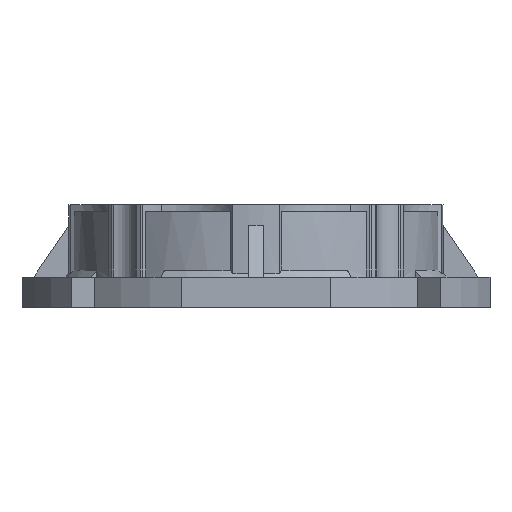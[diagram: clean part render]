
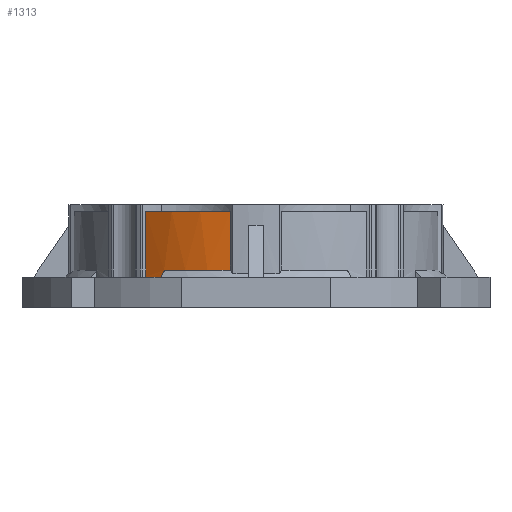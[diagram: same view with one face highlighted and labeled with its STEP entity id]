
A CAD part, left-side view. The second image highlights one B-rep face of the part: STEP entity #1313.
In plain terms, the highlighted cylindrical face has radius 78.5 mm (diameter 157 mm), a partial arc.
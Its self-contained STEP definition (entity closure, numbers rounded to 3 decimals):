
#1276 = EDGE_CURVE ( 'NONE', #4010, #4011, #4988, .T. ) ;
#1313 = ADVANCED_FACE ( 'NONE', ( #10997 ), #11000, .T. ) ;
#1583 = EDGE_CURVE ( 'NONE', #5924, #4010, #12081, .T. ) ;
#1584 = EDGE_CURVE ( 'NONE', #4011, #5877, #12084, .T. ) ;
#1618 = EDGE_CURVE ( 'NONE', #3640, #3636, #12267, .T. ) ;
#2126 = EDGE_CURVE ( 'NONE', #5877, #3640, #5258, .T. ) ;
#2345 = EDGE_CURVE ( 'NONE', #3636, #5924, #5354, .T. ) ;
#3636 = VERTEX_POINT ( 'NONE', #18124 ) ;
#3640 = VERTEX_POINT ( 'NONE', #18128 ) ;
#4010 = VERTEX_POINT ( 'NONE', #18207 ) ;
#4011 = VERTEX_POINT ( 'NONE', #18208 ) ;
#4102 = ORIENTED_EDGE ( 'NONE', *, *, #1618, .F. ) ;
#4103 = ORIENTED_EDGE ( 'NONE', *, *, #1583, .F. ) ;
#4104 = ORIENTED_EDGE ( 'NONE', *, *, #2126, .F. ) ;
#4105 = ORIENTED_EDGE ( 'NONE', *, *, #2345, .F. ) ;
#4106 = ORIENTED_EDGE ( 'NONE', *, *, #1584, .F. ) ;
#4108 = ORIENTED_EDGE ( 'NONE', *, *, #1276, .F. ) ;
#4988 = CIRCLE ( 'NONE', #10943, 78.5 ) ;
#5258 = CIRCLE ( 'NONE', #14835, 78.5 ) ;
#5354 = CIRCLE ( 'NONE', #15639, 78.5 ) ;
#5877 = VERTEX_POINT ( 'NONE', #18737 ) ;
#5924 = VERTEX_POINT ( 'NONE', #18784 ) ;
#8109 = EDGE_LOOP ( 'NONE', ( #4103, #4105, #4102, #4104, #4106, #4108 ) ) ;
#10757 = CARTESIAN_POINT ( 'NONE',  ( 0., 0., 3. ) ) ;
#10761 = DIRECTION ( 'NONE',  ( 0., 0., -1. ) ) ;
#10762 = DIRECTION ( 'NONE',  ( -1., 0., 0. ) ) ;
#10887 = CARTESIAN_POINT ( 'NONE',  ( 0., 0., 28. ) ) ;
#10888 = DIRECTION ( 'NONE',  ( 0., 0., -1. ) ) ;
#10889 = DIRECTION ( 'NONE',  ( -1., 0., 0. ) ) ;
#10943 = AXIS2_PLACEMENT_3D ( 'NONE', #10757, #10761, #10762 ) ;
#10997 = FACE_OUTER_BOUND ( 'NONE', #8109, .T. ) ;
#11000 = CYLINDRICAL_SURFACE ( 'NONE', #11001, 78.5 ) ;
#11001 = AXIS2_PLACEMENT_3D ( 'NONE', #10887, #10888, #10889 ) ;
#12081 = LINE ( 'NONE', #12082, #12185 ) ;
#12082 = CARTESIAN_POINT ( 'NONE',  ( -77.73, 10.969, 14. ) ) ;
#12083 = DIRECTION ( 'NONE',  ( 0., 0., -1. ) ) ;
#12084 = LINE ( 'NONE', #12085, #12186 ) ;
#12085 = CARTESIAN_POINT ( 'NONE',  ( -67.983, 39.25, 10. ) ) ;
#12086 = DIRECTION ( 'NONE',  ( 0., 0., -1. ) ) ;
#12185 = VECTOR ( 'NONE', #12083, 1000. ) ;
#12186 = VECTOR ( 'NONE', #12086, 1000. ) ;
#12219 = VECTOR ( 'NONE', #12269, 1000. ) ;
#12267 = LINE ( 'NONE', #12268, #12219 ) ;
#12268 = CARTESIAN_POINT ( 'NONE',  ( -62.72, 47.207, 14. ) ) ;
#12269 = DIRECTION ( 'NONE',  ( 0., 0., 1. ) ) ;
#14600 = CARTESIAN_POINT ( 'NONE',  ( 0., 0., 0. ) ) ;
#14616 = DIRECTION ( 'NONE',  ( 0., 0., -1. ) ) ;
#14617 = DIRECTION ( 'NONE',  ( 1., 0., 0. ) ) ;
#14835 = AXIS2_PLACEMENT_3D ( 'NONE', #14600, #14616, #14617 ) ;
#15541 = CARTESIAN_POINT ( 'NONE',  ( 0., 0., 28. ) ) ;
#15542 = DIRECTION ( 'NONE',  ( 0., 0., 1. ) ) ;
#15543 = DIRECTION ( 'NONE',  ( 1., 0., 0. ) ) ;
#15639 = AXIS2_PLACEMENT_3D ( 'NONE', #15541, #15542, #15543 ) ;
#18124 = CARTESIAN_POINT ( 'NONE',  ( -62.72, 47.207, 28. ) ) ;
#18128 = CARTESIAN_POINT ( 'NONE',  ( -62.72, 47.207, 0. ) ) ;
#18207 = CARTESIAN_POINT ( 'NONE',  ( -77.73, 10.969, 3. ) ) ;
#18208 = CARTESIAN_POINT ( 'NONE',  ( -67.983, 39.25, 3. ) ) ;
#18737 = CARTESIAN_POINT ( 'NONE',  ( -67.983, 39.25, 0. ) ) ;
#18784 = CARTESIAN_POINT ( 'NONE',  ( -77.73, 10.969, 28. ) ) ;
